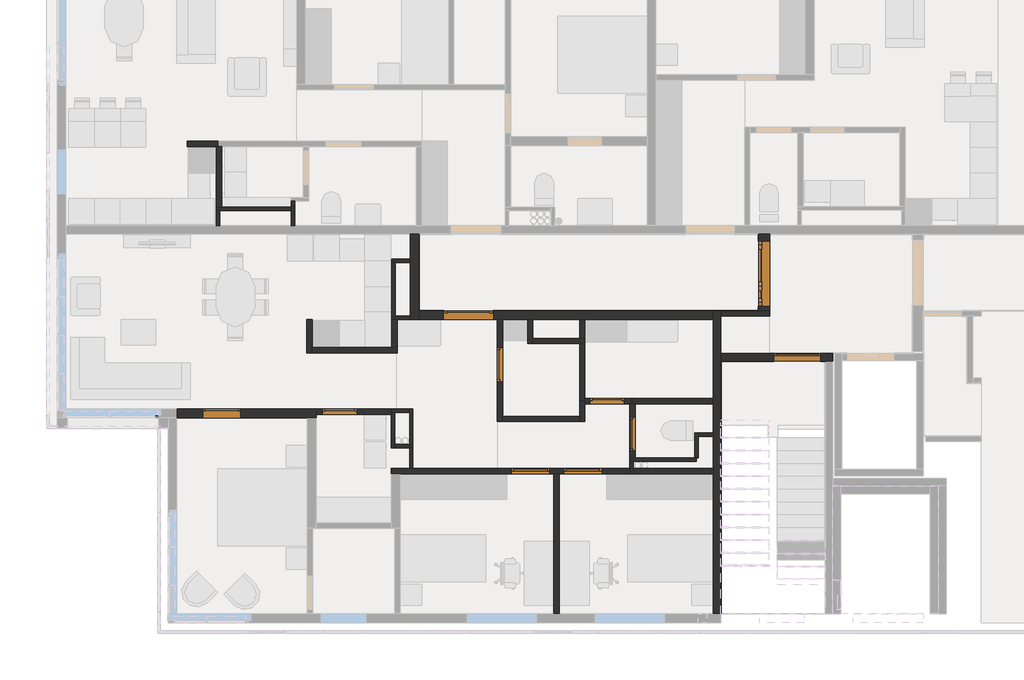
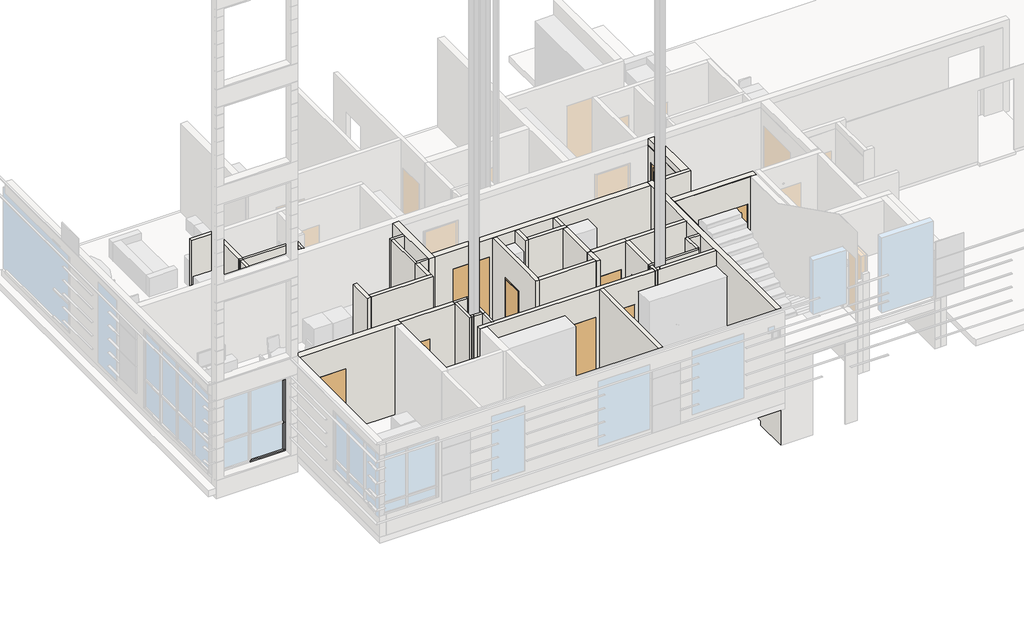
# One storey, part 6 of 14: 47 walls, 20 doors, 3 members, 2 plates.
"""IFC4 building model written with IfcOpenShell, lengths in millimetres."""

from ifc_helpers import new_model, si_unit, frame, origin, place, context, project, spatial, polyline, outline, extrude, faceted_brep, transform, mapped, element, save
from components import door_1f93f5fc, door_38ff9651, door_b4f82bfb, door_3b0bb860, door_b8e875bd, door_642c7085, door_3a59e23d, door_1132ae02, door_050a15a8, door_1362573d, door_b067f354, door_c5ad530d, door_0d53e0d2, door_be61796a, rectangular_mullion_150x50_b8963a12, rectangular_mullion_150x50_a91aaa2b, rectangular_mullion_150x50_60451361, system_panel_b4577e30, system_panel_097f168f

model = new_model("IFC4")

# Units and contexts
model_context = context("Model", 3, world=origin())
ifc_project = project(units=[si_unit("LENGTHUNIT", "METRE", prefix="MILLI")], contexts=[model_context])

# Site, building, storey
site = spatial("IfcSite", under=ifc_project)
building = spatial("IfcBuilding", under=site)
storey = spatial("IfcBuildingStorey", under=building, Name="03_+7,700_Ж", Elevation=4500.0)

# Doors
placement = place(None, origin())
door_shape = door_1f93f5fc(model_context)
element("IfcDoor", 1, ObjectType="Dr_Проем-Простой : ДВ", at=placement, inside=storey, context=model_context, shape_type="MappedRepresentation", body=[
    mapped(door_shape, transform((135799.6769838, 118599.9999987, 4500.0), x_axis=(1.0, 0.0, 0.0), y_axis=(0.0, 1.0, 0.0), z_axis=(0.0, 0.0, 1.0))),
])
door_2_shape = door_38ff9651(model_context)
element("IfcDoor", 2, ObjectType="Dr_Проем-Простой : ДВ", at=placement, inside=storey, context=model_context, shape_type="MappedRepresentation", body=[
    mapped(door_2_shape, transform((143905.3230165, 117609.9999987, 4500.0), x_axis=(-1.0, 0.0, 0.0), y_axis=(0.0, -1.0, 0.0), z_axis=(0.0, 0.0, 1.0))),
])
door_3_shape = door_b4f82bfb(model_context)
element("IfcDoor", 3, ObjectType="Dr_Проем-Простой : ДВ", at=placement, inside=storey, context=model_context, shape_type="MappedRepresentation", body=[
    mapped(door_3_shape, transform((142925.0000001, 119775.3230151, 4500.0), x_axis=(0.0, -1.0, 0.0), y_axis=(1.0, 0.0, 0.0), z_axis=(0.0, 0.0, 1.0))),
])
door_4_shape = door_3b0bb860(model_context)
element("IfcDoor", 4, ObjectType="Dr_Проем-Простой : ДВ", at=placement, inside=storey, context=model_context, shape_type="MappedRepresentation", body=[
    mapped(door_4_shape, transform((139842.5000001, 115609.6769824, 4500.0), x_axis=(0.0, 1.0, 0.0), y_axis=(-1.0, 0.0, 0.0), z_axis=(0.0, 0.0, 1.0))),
])
element("IfcDoor", 5, ObjectType="Dr_Проем-Простой : ДВ", at=placement, inside=storey, context=model_context, shape_type="MappedRepresentation", body=[
    mapped(door_4_shape, transform((139039.6769838, 116587.4999987, 4500.0), x_axis=(1.0, 0.0, 0.0), y_axis=(0.0, 1.0, 0.0), z_axis=(0.0, 0.0, 1.0))),
])
element("IfcDoor", 6, ObjectType="Dr_Проем-Простой : ДВ", at=placement, inside=storey, context=model_context, shape_type="MappedRepresentation", body=[
    mapped(door_4_shape, transform((132784.6769838, 116337.4999987, 4500.0), x_axis=(1.0, 0.0, 0.0), y_axis=(0.0, 1.0, 0.0), z_axis=(0.0, 0.0, 1.0))),
])
door_5_shape = door_b8e875bd(model_context)
element("IfcDoor", 7, ObjectType="Dr_Проем-Простой : ДВ", at=placement, inside=storey, context=model_context, shape_type="MappedRepresentation", body=[
    mapped(door_5_shape, transform((137249.6769838, 114942.4999987, 4500.0), x_axis=(1.0, 0.0, 0.0), y_axis=(0.0, 1.0, 0.0), z_axis=(0.0, 0.0, 1.0))),
])
element("IfcDoor", 8, ObjectType="Dr_Проем-Простой : ДВ", at=placement, inside=storey, context=model_context, shape_type="MappedRepresentation", body=[
    mapped(door_5_shape, transform((138474.6769838, 114942.4999987, 4500.0), x_axis=(1.0, 0.0, 0.0), y_axis=(0.0, 1.0, 0.0), z_axis=(0.0, 0.0, 1.0))),
])
element("IfcDoor", 9, ObjectType="Dr_Проем-Простой : ДВ", at=placement, inside=storey, context=model_context, shape_type="MappedRepresentation", body=[
    mapped(door_4_shape, transform((136742.5000001, 117234.6769824, 4500.0), x_axis=(0.0, 1.0, 0.0), y_axis=(-1.0, 0.0, 0.0), z_axis=(0.0, 0.0, 1.0))),
])
door_6_shape = door_642c7085(model_context)
element("IfcDoor", 10, ObjectType="Dr_Проем-Простой : ДВ", at=placement, inside=storey, context=model_context, shape_type="MappedRepresentation", body=[
    mapped(door_6_shape, transform((130024.6769838, 116294.9999987, 4500.0), x_axis=(1.0, 0.0, 0.0), y_axis=(0.0, 1.0, 0.0), z_axis=(0.0, 0.0, 1.0))),
])
door_7_shape = door_3a59e23d(model_context)
element("IfcDoor", 11, ObjectType="Dr_Дверь_v2.1 : ДВПС Оп Г 24-11,5 EI30", at=placement, inside=storey, context=model_context, shape_type="MappedRepresentation", body=[
    mapped(door_7_shape, transform((135880.0000001, 118599.9999987, 4500.0), x_axis=(1.0, 0.0, 0.0), y_axis=(0.0, 1.0, 0.0), z_axis=(0.0, 0.0, 1.0))),
])
door_8_shape = door_1132ae02(model_context)
element("IfcDoor", 12, ObjectType="Dr_Дверь_v2.1 : ДС Мд1 Оп Г Брг 21-8", at=placement, inside=storey, context=model_context, shape_type="MappedRepresentation", body=[
    mapped(door_8_shape, transform((139120.0000001, 116587.4999987, 4500.0), x_axis=(1.0, 0.0, 0.0), y_axis=(0.0, 1.0, 0.0), z_axis=(0.0, 0.0, 1.0))),
])
element("IfcDoor", 13, ObjectType="Dr_Дверь_v2.1 : ДС Мд1 Оп Г Брг 21-8", at=placement, inside=storey, context=model_context, shape_type="MappedRepresentation", body=[
    mapped(door_8_shape, transform((132865.0000001, 116337.4999987, 4500.0), x_axis=(1.0, 0.0, 0.0), y_axis=(0.0, 1.0, 0.0), z_axis=(0.0, 0.0, 1.0))),
])
element("IfcDoor", 14, ObjectType="Dr_Дверь_v2.1 : ДМ Мд1 Оп Г Брг 21-8", at=placement, inside=storey, context=model_context, shape_type="MappedRepresentation", body=[
    mapped(door_8_shape, transform((136742.5000001, 117314.9999987, 4500.0), x_axis=(0.0, 1.0, 0.0), y_axis=(-1.0, 0.0, 0.0), z_axis=(0.0, 0.0, 1.0))),
])
door_9_shape = door_050a15a8(model_context)
element("IfcDoor", 15, ObjectType="Dr_Дверь_v2.1 : ДМ Мд1 Зв2 Оп Г Брг 21-9", at=placement, inside=storey, context=model_context, shape_type="MappedRepresentation", body=[
    mapped(door_9_shape, transform((130105.0000001, 116294.9999987, 4500.0), x_axis=(1.0, 0.0, 0.0), y_axis=(0.0, 1.0, 0.0), z_axis=(0.0, 0.0, 1.0))),
])
door_10_shape = door_1362573d(model_context)
element("IfcDoor", 16, ObjectType="Dr_Дверь_v2.1 : ДВСТД Ос Дп 23-15 Л EIS60", at=placement, inside=storey, context=model_context, shape_type="MappedRepresentation", body=[
    mapped(door_10_shape, transform((142925.0000001, 119694.9999987, 4500.0), x_axis=(0.0, -1.0, 0.0), y_axis=(1.0, 0.0, 0.0), z_axis=(0.0, 0.0, 1.0))),
])
door_11_shape = door_b067f354(model_context)
element("IfcDoor", 17, ObjectType="Dr_Дверь_v2.1 : ДВСТД Оп Ос 21-11 Л EIS60", at=placement, inside=storey, context=model_context, shape_type="MappedRepresentation", body=[
    mapped(door_11_shape, transform((143825.0000001, 117609.9999987, 4500.0), x_axis=(-1.0, 0.0, 0.0), y_axis=(0.0, -1.0, 0.0), z_axis=(0.0, 0.0, 1.0))),
])
door_12_shape = door_c5ad530d(model_context)
element("IfcDoor", 18, ObjectType="Dr_Дверь_v2.1 : ДС Мд1 Оп Г Брг 21-8", at=placement, inside=storey, context=model_context, shape_type="MappedRepresentation", body=[
    mapped(door_12_shape, transform((139842.5000001, 115689.9999987, 4500.0), x_axis=(0.0, 1.0, 0.0), y_axis=(-1.0, 0.0, 0.0), z_axis=(0.0, 0.0, 1.0))),
])
door_13_shape = door_0d53e0d2(model_context)
element("IfcDoor", 19, ObjectType="Dr_Дверь_v2.1 : ДМ Мд1 Зв3 Оп Г Брг 21-9", at=placement, inside=storey, context=model_context, shape_type="MappedRepresentation", body=[
    mapped(door_13_shape, transform((137330.0000001, 114942.4999987, 4500.0), x_axis=(1.0, 0.0, 0.0), y_axis=(0.0, 1.0, 0.0), z_axis=(0.0, 0.0, 1.0))),
])
door_14_shape = door_be61796a(model_context)
element("IfcDoor", 20, ObjectType="Dr_Дверь_v2.1 : ДМ Мд1 Зв3 Оп Г Брг 21-9 Л", at=placement, inside=storey, context=model_context, shape_type="MappedRepresentation", body=[
    mapped(door_14_shape, transform((138555.0000001, 114942.4999987, 4500.0), x_axis=(1.0, 0.0, 0.0), y_axis=(0.0, 1.0, 0.0), z_axis=(0.0, 0.0, 1.0))),
])

# Members
rectangular_mullion_150x50_shape = rectangular_mullion_150x50_b8963a12(model_context)
element("IfcMember", 21, ObjectType="Rectangular Mullion : 150x50", at=placement, inside=storey, context=model_context, shape_type="MappedRepresentation", body=[
    mapped(rectangular_mullion_150x50_shape, transform((128730.0000001, 116274.9999987, 7100.0), x_axis=(1.0, 0.0, 0.0), y_axis=(0.0, 1.0, 0.0), z_axis=(0.0, 0.0, 1.0))),
])
rectangular_mullion_150x50_2_shape = rectangular_mullion_150x50_a91aaa2b(model_context)
element("IfcMember", 22, ObjectType="Rectangular Mullion : 150x50", at=placement, inside=storey, context=model_context, shape_type="MappedRepresentation", body=[
    mapped(rectangular_mullion_150x50_2_shape, transform((128730.0000001, 116274.9999987, 5475.0), x_axis=(1.0, 0.0, 0.0), y_axis=(0.0, 1.0, 0.0), z_axis=(0.0, 0.0, 1.0))),
])
rectangular_mullion_150x50_3_shape = rectangular_mullion_150x50_60451361(model_context)
element("IfcMember", 23, ObjectType="Rectangular Mullion : 150x50", at=placement, inside=storey, context=model_context, shape_type="MappedRepresentation", body=[
    mapped(rectangular_mullion_150x50_3_shape, transform((128730.0000001, 116274.9999987, 4500.0), x_axis=(0.0, 0.0, -1.0), y_axis=(0.0, 1.0, 0.0), z_axis=(1.0, 0.0, 0.0))),
])

# Plates
system_panel_shape = system_panel_b4577e30(model_context)
element("IfcPlate", 24, ObjectType="System Panel : стекло_смещение_0", at=placement, inside=storey, context=model_context, shape_type="MappedRepresentation", body=[
    mapped(system_panel_shape, transform((128155.0000001, 116274.9999987, 4550.0), x_axis=(-1.0, 0.0, 0.0), y_axis=(0.0, -1.0, 0.0), z_axis=(0.0, 0.0, 1.0))),
])
system_panel_2_shape = system_panel_097f168f(model_context)
element("IfcPlate", 25, ObjectType="System Panel : стекло_смещение_0", at=placement, inside=storey, context=model_context, shape_type="MappedRepresentation", body=[
    mapped(system_panel_2_shape, transform((128155.0000001, 116274.9999987, 5500.0), x_axis=(-1.0, 0.0, 0.0), y_axis=(0.0, -1.0, 0.0), z_axis=(0.0, 0.0, 1.0))),
])

# Walls
element("IfcWall", 26, ObjectType="BW_SUB_SKZ_INT_80+40+80=200_Тип П7-------", at=placement, inside=storey, context=model_context, shape_type="SweptSolid", body=[
    extrude(outline(polyline([(134840.0000001, 120499.9999987), (134840.0000001, 118499.9999987), (134640.0000001, 118499.9999987), (134640.0000001, 120499.9999987), (134840.0000001, 120499.9999987)])), frame((0.0, 0.0, 4400.0), z_axis=(0.0, 0.0, 1.0), x_axis=(1.0, 0.0, 0.0)), (0.0, 0.0, 1.0), 3100.0),
])
element("IfcWall", 27, ObjectType="BW_SUB_GKL_INT_125_Тип П9.1-------", at=placement, inside=storey, context=model_context, shape_type="Brep", body=[
    faceted_brep([(136680.0000001, 116104.9999987, 7500.0), (136680.0000001, 118499.9999987, 7500.0), (136680.0000001, 118499.9999987, 4480.0), (136680.0000001, 117839.9999987, 4480.0), (136680.0000001, 117839.9999987, 6600.0), (136680.0000001, 117039.9999987, 6600.0), (136680.0000001, 117039.9999987, 4480.0), (136680.0000001, 116104.9999987, 4480.0), (136805.0000001, 118499.9999987, 7500.0), (136805.0000001, 116229.9999987, 7500.0), (136805.0000001, 116104.9999987, 7500.0), (136805.0000001, 116104.9999987, 4480.0), (136805.0000001, 116229.9999987, 4480.0), (136805.0000001, 117039.9999987, 4480.0), (136805.0000001, 117039.9999987, 6600.0), (136805.0000001, 117839.9999987, 6600.0), (136805.0000001, 117839.9999987, 4480.0), (136805.0000001, 118499.9999987, 4480.0)], [[[0, 1, 2, 3, 4, 5, 6, 7]], [[8, 9, 10, 11, 12, 13, 14, 15, 16, 17]], [[2, 17, 16, 3]], [[11, 7, 6, 13, 12]], [[1, 0, 10, 9, 8]], [[2, 1, 8, 17]], [[5, 14, 13, 6]], [[15, 4, 3, 16]], [[14, 5, 4, 15]], [[0, 7, 11, 10]]]),
])
element("IfcWall", 28, ObjectType="BW_SUB_SKZ_INT_80_Тип П15-------", at=placement, inside=storey, context=model_context, shape_type="Brep", body=[
    faceted_brep([(141300.0000001, 115839.9999987, 4400.0), (141300.0000001, 115249.9999987, 4400.0), (141300.0000001, 115249.9999987, 7500.0), (141300.0000001, 115839.9999987, 7500.0), (141380.0000001, 115839.9999987, 4400.0), (141380.0000001, 115839.9999987, 7500.0), (141380.0000001, 115759.9999987, 7500.0), (141380.0000001, 115249.9999987, 7500.0), (141380.0000001, 115249.9999987, 4400.0), (141380.0000001, 115759.9999987, 4400.0), (141340.0000001, 115249.9999987, 4400.0), (141340.0000001, 115249.9999987, 7500.0)], [[[0, 1, 2, 3]], [[4, 5, 6, 7, 8, 9]], [[1, 0, 4, 9, 8, 10]], [[3, 2, 11, 7, 6, 5]], [[0, 3, 5, 4]], [[2, 1, 10, 8, 7, 11]]]),
])
element("IfcWall", 29, ObjectType="BW_SUB_GKL_INT_125_Тип П9.2-------", at=placement, inside=storey, context=model_context, shape_type="Brep", body=[
    faceted_brep([(139780.0000001, 115249.9999987, 4480.0), (139780.0000001, 115249.9999987, 7500.0), (139780.0000001, 116524.9999987, 7500.0), (139780.0000001, 116524.9999987, 4480.0), (139780.0000001, 116214.9999987, 4480.0), (139780.0000001, 116214.9999987, 6600.0), (139780.0000001, 115414.9999987, 6600.0), (139780.0000001, 115414.9999987, 4480.0), (139905.0000001, 115249.9999987, 7500.0), (139905.0000001, 115249.9999987, 4480.0), (139905.0000001, 115414.9999987, 4480.0), (139905.0000001, 115414.9999987, 6600.0), (139905.0000001, 116214.9999987, 6600.0), (139905.0000001, 116214.9999987, 4480.0), (139905.0000001, 116524.9999987, 4480.0), (139905.0000001, 116524.9999987, 7500.0), (139822.5000001, 116524.9999987, 4480.0), (139822.5000001, 116524.9999987, 7500.0)], [[[0, 1, 2, 3, 4, 5, 6, 7]], [[8, 9, 10, 11, 12, 13, 14, 15]], [[9, 0, 7, 10]], [[3, 16, 14, 13, 4]], [[1, 0, 9, 8]], [[2, 1, 8, 15, 17]], [[6, 11, 10, 7]], [[12, 5, 4, 13]], [[11, 6, 5, 12]], [[3, 2, 17, 15, 14, 16]]]),
])
element("IfcWall", 30, ObjectType="BW_SUB_GKL_INT_125_Тип П9.1-------", at=placement, inside=storey, context=model_context, shape_type="Brep", body=[
    faceted_brep([(139780.0000001, 114879.9999987, 4480.0), (139780.0000001, 114879.9999987, 7500.0), (138130.0000001, 114879.9999987, 7500.0), (138005.0000001, 114879.9999987, 7500.0), (134405.0000001, 114879.9999987, 7500.0), (134195.0000001, 114879.9999987, 7500.0), (134195.0000001, 114879.9999987, 4480.0), (134405.0000001, 114879.9999987, 4480.0), (137005.0000001, 114879.9999987, 4480.0), (137005.0000001, 114879.9999987, 6600.0), (137905.0000001, 114879.9999987, 6600.0), (137905.0000001, 114879.9999987, 4480.0), (138005.0000001, 114879.9999987, 4480.0), (138130.0000001, 114879.9999987, 4480.0), (138230.0000001, 114879.9999987, 4480.0), (138230.0000001, 114879.9999987, 6600.0), (139130.0000001, 114879.9999987, 6600.0), (139130.0000001, 114879.9999987, 4480.0), (139780.0000001, 115004.9999987, 7500.0), (139780.0000001, 115004.9999987, 4480.0), (139130.0000001, 115004.9999987, 4480.0), (139130.0000001, 115004.9999987, 6600.0), (138230.0000001, 115004.9999987, 6600.0), (138230.0000001, 115004.9999987, 4480.0), (137905.0000001, 115004.9999987, 4480.0), (137905.0000001, 115004.9999987, 6600.0), (137005.0000001, 115004.9999987, 6600.0), (137005.0000001, 115004.9999987, 4480.0), (134195.0000001, 115004.9999987, 4480.0), (134195.0000001, 115004.9999987, 7500.0)], [[[0, 1, 2, 3, 4, 5, 6, 7, 8, 9, 10, 11, 12, 13, 14, 15, 16, 17]], [[18, 19, 20, 21, 22, 23, 24, 25, 26, 27, 28, 29]], [[19, 0, 17, 20]], [[27, 8, 7, 6, 28]], [[11, 24, 23, 14, 13, 12]], [[1, 0, 19, 18]], [[5, 4, 3, 2, 1, 18, 29]], [[26, 9, 8, 27]], [[10, 25, 24, 11]], [[9, 26, 25, 10]], [[6, 5, 29, 28]], [[22, 15, 14, 23]], [[16, 21, 20, 17]], [[15, 22, 21, 16]]]),
])
element("IfcWall", 31, ObjectType="BW_SUB_GKL_INT_125_Тип П9.2-------", at=placement, inside=storey, context=model_context, shape_type="Brep", body=[
    faceted_brep([(139822.5000001, 116524.9999987, 4480.0), (139822.5000001, 116524.9999987, 7500.0), (139780.0000001, 116524.9999987, 7500.0), (138730.0000001, 116524.9999987, 7500.0), (138730.0000001, 116524.9999987, 4480.0), (138845.0000001, 116524.9999987, 4480.0), (138845.0000001, 116524.9999987, 6600.0), (139645.0000001, 116524.9999987, 6600.0), (139645.0000001, 116524.9999987, 4480.0), (139780.0000001, 116524.9999987, 4480.0), (139822.5000001, 116649.9999987, 7500.0), (139822.5000001, 116649.9999987, 4480.0), (139645.0000001, 116649.9999987, 4480.0), (139645.0000001, 116649.9999987, 6600.0), (138845.0000001, 116649.9999987, 6600.0), (138845.0000001, 116649.9999987, 4480.0), (138730.0000001, 116649.9999987, 4480.0), (138730.0000001, 116649.9999987, 7500.0), (138730.0000001, 116587.4999987, 4480.0), (138730.0000001, 116587.4999987, 7500.0)], [[[0, 1, 2, 3, 4, 5, 6, 7, 8, 9]], [[10, 11, 12, 13, 14, 15, 16, 17]], [[4, 18, 16, 15, 5]], [[11, 0, 9, 8, 12]], [[1, 0, 11, 10]], [[3, 2, 1, 10, 17, 19]], [[14, 6, 5, 15]], [[7, 13, 12, 8]], [[6, 14, 13, 7]], [[4, 3, 19, 17, 16, 18]]]),
])
element("IfcWall", 32, ObjectType="BW_SUB_GKL_INT_125_Тип П9.1-------", at=placement, inside=storey, context=model_context, shape_type="SweptSolid", body=[
    extrude(outline(polyline([(138005.0000001, 111599.9999987), (138005.0000001, 114879.9999987), (138130.0000001, 114879.9999987), (138130.0000001, 111599.9999987), (138005.0000001, 111599.9999987)])), frame((0.0, 0.0, 4480.0), z_axis=(0.0, 0.0, 1.0), x_axis=(1.0, 0.0, 0.0)), (0.0, 0.0, 1.0), 3020.0),
])
element("IfcWall", 33, ObjectType="BW_SUB_GKL_INT_210_Тип П10.1-------", at=placement, inside=storey, context=model_context, shape_type="Brep", body=[
    faceted_brep([(132445.0000001, 116189.9999987, 7500.0), (132235.0000001, 116189.9999987, 7500.0), (129180.0000001, 116189.9999987, 7500.0), (129180.0000001, 116189.9999987, 4480.0), (129780.0000001, 116189.9999987, 4480.0), (129780.0000001, 116189.9999987, 6600.0), (130680.0000001, 116189.9999987, 6600.0), (130680.0000001, 116189.9999987, 4480.0), (132235.0000001, 116189.9999987, 4480.0), (132445.0000001, 116189.9999987, 4480.0), (129180.0000001, 116399.9999987, 7500.0), (132445.0000001, 116399.9999987, 7500.0), (132445.0000001, 116399.9999987, 4480.0), (130680.0000001, 116399.9999987, 4480.0), (130680.0000001, 116399.9999987, 6600.0), (129780.0000001, 116399.9999987, 6600.0), (129780.0000001, 116399.9999987, 4480.0), (129180.0000001, 116399.9999987, 4480.0), (132445.0000001, 116274.9999987, 4480.0), (132445.0000001, 116274.9999987, 7500.0)], [[[0, 1, 2, 3, 4, 5, 6, 7, 8, 9]], [[10, 11, 12, 13, 14, 15, 16, 17]], [[3, 17, 16, 4]], [[12, 18, 9, 8, 7, 13]], [[2, 1, 0, 19, 11, 10]], [[3, 2, 10, 17]], [[15, 5, 4, 16]], [[6, 14, 13, 7]], [[5, 15, 14, 6]], [[0, 9, 18, 12, 11, 19]]]),
])
element("IfcWall", 34, ObjectType="BW_SUB_GKL_INT_125_Тип П9.1-------", at=placement, inside=storey, context=model_context, shape_type="Brep", body=[
    faceted_brep([(138730.0000001, 116104.9999987, 4480.0), (138730.0000001, 116524.9999987, 4480.0), (138730.0000001, 116587.4999987, 4480.0), (138730.0000001, 116587.4999987, 7500.0), (138730.0000001, 116524.9999987, 7500.0), (138730.0000001, 116104.9999987, 7500.0), (138605.0000001, 116104.9999987, 4480.0), (138605.0000001, 116104.9999987, 7500.0), (138605.0000001, 116229.9999987, 7500.0), (138605.0000001, 116587.4999987, 7500.0), (138605.0000001, 116587.4999987, 4480.0), (138605.0000001, 116229.9999987, 4480.0)], [[[0, 1, 2, 3, 4, 5]], [[6, 7, 8, 9, 10, 11]], [[2, 1, 0, 6, 11, 10]], [[3, 2, 10, 9]], [[5, 4, 3, 9, 8, 7]], [[0, 5, 7, 6]]]),
])
element("IfcWall", 35, ObjectType="BW_SUB_SKZ_INT_80_Тип П15-------", at=placement, inside=storey, context=model_context, shape_type="SweptSolid", body=[
    extrude(outline(polyline([(141730.0000002, 115759.9999987), (141380.0000001, 115759.9999987), (141380.0000001, 115839.9999987), (141730.0000002, 115839.9999987), (141730.0000002, 115759.9999987)])), frame((0.0, 0.0, 4400.0), z_axis=(0.0, 0.0, 1.0), x_axis=(1.0, 0.0, 0.0)), (0.0, 0.0, 1.0), 3100.0),
])
element("IfcWall", 36, ObjectType="BW_SUB_GKL_INT_125_Тип П9.2-------", at=placement, inside=storey, context=model_context, shape_type="SweptSolid", body=[
    extrude(outline(polyline([(4480.0, 134195.0000001), (7500.0, 134195.0000001), (7500.0, 132445.0000001), (4480.0, 132445.0000001), (4480.0, 132590.0000001), (6600.0, 132590.0000001), (6600.0, 133390.0000001), (4480.0, 133390.0000001), (4480.0, 134195.0000001)])), frame((0.0, 116274.9999987, 0.0), z_axis=(0.0, 1.0, 0.0), x_axis=(0.0, 0.0, 1.0)), (0.0, 0.0, 1.0), 125.0),
])
element("IfcWall", 37, ObjectType="BW_SUB_SKZ_INT_80_Тип П15-------", at=placement, inside=storey, context=model_context, shape_type="Brep", body=[
    faceted_brep([(134275.0000001, 115494.9999987, 4400.0), (134275.0000001, 115574.9999987, 4400.0), (134275.0000001, 116319.9999987, 4400.0), (134275.0000001, 116319.9999987, 7500.0), (134275.0000001, 115574.9999987, 7500.0), (134275.0000001, 115494.9999987, 7500.0), (134195.0000001, 115494.9999987, 4400.0), (134195.0000001, 115494.9999987, 7500.0), (134195.0000001, 116319.9999987, 7500.0), (134195.0000001, 116319.9999987, 4400.0)], [[[0, 1, 2, 3, 4, 5]], [[6, 7, 8, 9]], [[2, 1, 0, 6, 9]], [[5, 4, 3, 8, 7]], [[0, 5, 7, 6]], [[3, 2, 9, 8]]]),
])
element("IfcWall", 38, ObjectType="BW_SUB_SKZ_INT_80_Тип П3,П5,П11,П12-------", at=placement, inside=storey, context=model_context, shape_type="SweptSolid", body=[
    extrude(outline(polyline([(134705.0000001, 115494.9999987), (134705.0000001, 115004.9999987), (134625.0000001, 115004.9999987), (134625.0000001, 115494.9999987), (134705.0000001, 115494.9999987)])), frame((0.0, 0.0, 4400.0), z_axis=(0.0, 0.0, 1.0), x_axis=(1.0, 0.0, 0.0)), (0.0, 0.0, 1.0), 3100.0),
])
element("IfcWall", 39, ObjectType="BW_SUB_SKZ_INT_80_Тип П15-------", at=placement, inside=storey, context=model_context, shape_type="SweptSolid", body=[
    extrude(outline(polyline([(134625.0000001, 115494.9999987), (134275.0000001, 115494.9999987), (134275.0000001, 115574.9999987), (134625.0000001, 115574.9999987), (134625.0000001, 115494.9999987)])), frame((0.0, 0.0, 4400.0), z_axis=(0.0, 0.0, 1.0), x_axis=(1.0, 0.0, 0.0)), (0.0, 0.0, 1.0), 3100.0),
])
element("IfcWall", 40, ObjectType="BW_SUB_SKZ_INT_80_Тип П15-------", at=placement, inside=storey, context=model_context, shape_type="Brep", body=[
    faceted_brep([(134210.0000001, 119829.9999987, 4400.0), (134210.0000001, 118499.9999987, 4400.0), (134210.0000001, 118499.9999987, 7500.0), (134210.0000001, 119829.9999987, 7500.0), (134290.0000001, 119829.9999987, 4400.0), (134290.0000001, 119829.9999987, 7500.0), (134290.0000001, 118579.9999987, 7500.0), (134290.0000001, 118499.9999987, 7500.0), (134290.0000001, 118499.9999987, 4400.0), (134290.0000001, 118579.9999987, 4400.0)], [[[0, 1, 2, 3]], [[4, 5, 6, 7, 8, 9]], [[1, 0, 4, 9, 8]], [[3, 2, 7, 6, 5]], [[2, 1, 8, 7]], [[0, 3, 5, 4]]]),
])
element("IfcWall", 41, ObjectType="BW_SUB_SKZ_INT_80_Тип П15-------", at=placement, inside=storey, context=model_context, shape_type="SweptSolid", body=[
    extrude(outline(polyline([(134640.0000001, 118499.9999987), (134290.0000001, 118499.9999987), (134290.0000001, 118579.9999987), (134640.0000001, 118579.9999987), (134640.0000001, 118499.9999987)])), frame((0.0, 0.0, 4400.0), z_axis=(0.0, 0.0, 1.0), x_axis=(1.0, 0.0, 0.0)), (0.0, 0.0, 1.0), 3100.0),
])
element("IfcWall", 42, ObjectType="BW_SUB_GKL_INT_125_Тип П9.1-------", at=placement, inside=storey, context=model_context, shape_type="Brep", body=[
    faceted_brep([(132350.0000001, 117714.9999987, 4480.0), (134335.0000001, 117714.9999987, 4480.0), (134335.0000001, 117714.9999987, 7500.0), (132350.0000001, 117714.9999987, 7500.0), (132350.0000001, 117839.9999987, 4480.0), (132350.0000001, 117839.9999987, 7500.0), (134210.0000001, 117839.9999987, 7500.0), (134335.0000001, 117839.9999987, 7500.0), (134335.0000001, 117839.9999987, 4480.0), (134210.0000001, 117839.9999987, 4480.0)], [[[0, 1, 2, 3]], [[4, 5, 6, 7, 8, 9]], [[1, 0, 4, 9, 8]], [[3, 2, 7, 6, 5]], [[2, 1, 8, 7]], [[0, 3, 5, 4]]]),
])
element("IfcWall", 43, ObjectType="BW_SUB_GKL_INT_125_Тип П9.1-------", at=placement, inside=storey, context=model_context, shape_type="SweptSolid", body=[
    extrude(outline(polyline([(134335.0000001, 118499.9999987), (134335.0000001, 117839.9999987), (134210.0000001, 117839.9999987), (134210.0000001, 118499.9999987), (134335.0000001, 118499.9999987)])), frame((0.0, 0.0, 4480.0), z_axis=(0.0, 0.0, 1.0), x_axis=(1.0, 0.0, 0.0)), (0.0, 0.0, 1.0), 3020.0),
])
element("IfcWall", 44, ObjectType="BW_SUB_GKL_INT_125_Тип П9.1_огибание в торцах-------", at=placement, inside=storey, context=model_context, shape_type="Brep", body=[
    faceted_brep([(132350.0000001, 117714.9999987, 4480.0), (132350.0000001, 117839.9999987, 4480.0), (132350.0000001, 118499.9999987, 4480.0), (132350.0000001, 118499.9999987, 7500.0), (132350.0000001, 117839.9999987, 7500.0), (132350.0000001, 117714.9999987, 7500.0), (132225.0000001, 117714.9999987, 4480.0), (132225.0000001, 117714.9999987, 7500.0), (132225.0000001, 118499.9999987, 7500.0), (132225.0000001, 118499.9999987, 4480.0)], [[[0, 1, 2, 3, 4, 5]], [[6, 7, 8, 9]], [[2, 1, 0, 6, 9]], [[3, 2, 9, 8]], [[5, 4, 3, 8, 7]], [[0, 5, 7, 6]]]),
])
element("IfcWall", 45, ObjectType="BW_SUB_GKL_INT_125_Тип П9.2-------", at=placement, inside=storey, context=model_context, shape_type="Brep", body=[
    faceted_brep([(130100.0000001, 122549.9999987, 4480.0), (130100.0000001, 121129.9999987, 4480.0), (130100.0000001, 121129.9999987, 7500.0), (130100.0000001, 122549.9999987, 7500.0), (130225.0000001, 122549.9999987, 4480.0), (130225.0000001, 122549.9999987, 7500.0), (130225.0000001, 121129.9999987, 7500.0), (130225.0000001, 121129.9999987, 4480.0), (130140.0000001, 122549.9999987, 4480.0), (130140.0000001, 122549.9999987, 7500.0)], [[[0, 1, 2, 3]], [[4, 5, 6, 7]], [[1, 0, 8, 4, 7]], [[2, 1, 7, 6]], [[3, 2, 6, 5, 9]], [[0, 3, 9, 5, 4, 8]]]),
])
element("IfcWall", 46, ObjectType="BW_SUB_GKL_INT_125_Тип П9.1_огибание в торцах-------", at=placement, inside=storey, context=model_context, shape_type="Brep", body=[
    faceted_brep([(129420.0000001, 122549.9999987, 4480.0), (130100.0000001, 122549.9999987, 4480.0), (130140.0000001, 122549.9999987, 4480.0), (130140.0000001, 122549.9999987, 7500.0), (130100.0000001, 122549.9999987, 7500.0), (129420.0000001, 122549.9999987, 7500.0), (129420.0000001, 122674.9999987, 4480.0), (129420.0000001, 122674.9999987, 7500.0), (130140.0000001, 122674.9999987, 7500.0), (130140.0000001, 122674.9999987, 4480.0)], [[[0, 1, 2, 3, 4, 5]], [[6, 7, 8, 9]], [[2, 1, 0, 6, 9]], [[3, 2, 9, 8]], [[5, 4, 3, 8, 7]], [[0, 5, 7, 6]]]),
])
element("IfcWall", 47, ObjectType="BW_SUB_SKZ_INT_80_Тип П15-------", at=placement, inside=storey, context=model_context, shape_type="Brep", body=[
    faceted_brep([(130100.0000001, 121049.9999987, 4400.0), (130180.0000001, 121049.9999987, 4400.0), (131855.0000001, 121049.9999987, 4400.0), (131855.0000001, 121049.9999987, 7500.0), (130180.0000001, 121049.9999987, 7500.0), (130100.0000001, 121049.9999987, 7500.0), (130100.0000001, 121129.9999987, 4400.0), (130100.0000001, 121129.9999987, 7500.0), (131855.0000001, 121129.9999987, 7500.0), (131855.0000001, 121129.9999987, 4400.0)], [[[0, 1, 2, 3, 4, 5]], [[6, 7, 8, 9]], [[2, 1, 0, 6, 9]], [[5, 4, 3, 8, 7]], [[0, 5, 7, 6]], [[3, 2, 9, 8]]]),
])
element("IfcWall", 48, ObjectType="BW_SUB_SKZ_INT_80_Тип П15-------", at=placement, inside=storey, context=model_context, shape_type="Brep", body=[
    faceted_brep([(131935.0000001, 120699.9999987, 4400.0), (131935.0000001, 121149.9999987, 4400.0), (131935.0000001, 121149.9999987, 7500.0), (131935.0000001, 120699.9999987, 7500.0), (131855.0000001, 120699.9999987, 4400.0), (131855.0000001, 120699.9999987, 7500.0), (131855.0000001, 121049.9999987, 7500.0), (131855.0000001, 121129.9999987, 7500.0), (131855.0000001, 121149.9999987, 7500.0), (131855.0000001, 121149.9999987, 4400.0), (131855.0000001, 121129.9999987, 4400.0), (131855.0000001, 121049.9999987, 4400.0)], [[[0, 1, 2, 3]], [[4, 5, 6, 7, 8, 9, 10, 11]], [[1, 0, 4, 11, 10, 9]], [[2, 1, 9, 8]], [[3, 2, 8, 7, 6, 5]], [[0, 3, 5, 4]]]),
])
element("IfcWall", 49, ObjectType="BW_SUB_SKZ_INT_80_Тип П15-------", at=placement, inside=storey, context=model_context, shape_type="Brep", body=[
    faceted_brep([(139780.0000001, 115169.9999987, 4400.0), (139860.0000001, 115169.9999987, 4400.0), (141340.0000001, 115169.9999987, 4400.0), (141340.0000001, 115169.9999987, 7500.0), (139860.0000001, 115169.9999987, 7500.0), (139780.0000001, 115169.9999987, 7500.0), (139780.0000001, 115249.9999987, 4400.0), (139780.0000001, 115249.9999987, 7500.0), (141300.0000001, 115249.9999987, 7500.0), (141340.0000001, 115249.9999987, 7500.0), (141340.0000001, 115249.9999987, 4400.0), (141300.0000001, 115249.9999987, 4400.0)], [[[0, 1, 2, 3, 4, 5]], [[6, 7, 8, 9, 10, 11]], [[2, 1, 0, 6, 11, 10]], [[3, 2, 10, 9]], [[5, 4, 3, 9, 8, 7]], [[0, 5, 7, 6]]]),
])
element("IfcWall", 50, ObjectType="BW_SUB_BrF_INT_250_Тип П2-------", at=placement, inside=storey, context=model_context, shape_type="Brep", body=[
    faceted_brep([(143050.0000001, 120499.9999987, 4400.0), (143050.0000001, 120499.9999987, 7500.0), (143050.0000001, 118699.9999987, 7500.0), (143050.0000001, 118699.9999987, 4400.0), (143050.0000001, 118804.9999987, 4400.0), (143050.0000001, 118804.9999987, 6800.0), (143050.0000001, 120334.9999987, 6800.0), (143050.0000001, 120334.9999987, 4400.0), (142800.0000001, 120499.9999987, 7500.0), (142800.0000001, 120499.9999987, 4400.0), (142800.0000001, 120334.9999987, 4400.0), (142800.0000001, 120334.9999987, 4500.0), (142800.0000001, 120334.9999987, 6800.0), (142800.0000001, 118804.9999987, 6800.0), (142800.0000001, 118804.9999987, 4500.0), (142800.0000001, 118804.9999987, 4400.0), (142800.0000001, 118699.9999987, 4400.0), (142800.0000001, 118699.9999987, 7500.0)], [[[0, 1, 2, 3, 4, 5, 6, 7]], [[8, 9, 10, 11, 12, 13, 14, 15, 16, 17]], [[9, 0, 7, 10]], [[3, 16, 15, 4]], [[1, 0, 9, 8]], [[2, 1, 8, 17]], [[6, 12, 11, 10, 7]], [[13, 5, 4, 15, 14]], [[12, 6, 5, 13]], [[3, 2, 17, 16]]]),
])
element("IfcWall", 51, ObjectType="BW_SUB_BrF_INT_120_Тип П1-------", at=placement, inside=storey, context=model_context, shape_type="Brep", body=[
    faceted_brep([(143050.0000002, 118699.9999987, 4400.0), (142800.0000001, 118699.9999987, 4400.0), (141910.0000002, 118699.9999987, 4400.0), (141910.0000002, 118699.9999987, 7500.0), (142800.0000001, 118699.9999987, 7500.0), (143050.0000002, 118699.9999987, 7500.0), (143050.0000002, 118579.9999987, 4400.0), (143050.0000002, 118579.9999987, 7500.0), (141910.0000002, 118579.9999987, 7500.0), (141910.0000002, 118579.9999987, 4400.0)], [[[0, 1, 2, 3, 4, 5]], [[6, 7, 8, 9]], [[2, 1, 0, 6, 9]], [[3, 2, 9, 8]], [[5, 4, 3, 8, 7]], [[0, 5, 7, 6]]]),
])
element("IfcWall", 52, ObjectType="BW_SUB_SKZ_INT_80_Тип П15-------", at=placement, inside=storey, context=model_context, shape_type="Brep", body=[
    faceted_brep([(134640.0000001, 119909.9999987, 4400.0), (134210.0000001, 119909.9999987, 4400.0), (134210.0000001, 119909.9999987, 7500.0), (134640.0000001, 119909.9999987, 7500.0), (134640.0000001, 119829.9999987, 4400.0), (134640.0000001, 119829.9999987, 7500.0), (134290.0000001, 119829.9999987, 7500.0), (134210.0000001, 119829.9999987, 7500.0), (134210.0000001, 119829.9999987, 4400.0), (134290.0000001, 119829.9999987, 4400.0)], [[[0, 1, 2, 3]], [[4, 5, 6, 7, 8, 9]], [[1, 0, 4, 9, 8]], [[3, 2, 7, 6, 5]], [[0, 3, 5, 4]], [[2, 1, 8, 7]]]),
])
element("IfcWall", 53, ObjectType="BW_SUB_BrF_INT_120_Тип П1-------", at=placement, inside=storey, context=model_context, shape_type="Brep", body=[
    faceted_brep([(137390.0000001, 118499.9999987, 4400.0), (137390.0000001, 117929.9999987, 4400.0), (137390.0000001, 117929.9999987, 7500.0), (137390.0000001, 118499.9999987, 7500.0), (137510.0000001, 118499.9999987, 4400.0), (137510.0000001, 118499.9999987, 7500.0), (137510.0000001, 118049.9999987, 7500.0), (137510.0000001, 117929.9999987, 7500.0), (137510.0000001, 117929.9999987, 4400.0), (137510.0000001, 118049.9999987, 4400.0)], [[[0, 1, 2, 3]], [[4, 5, 6, 7, 8, 9]], [[1, 0, 4, 9, 8]], [[3, 2, 7, 6, 5]], [[0, 3, 5, 4]], [[2, 1, 8, 7]]]),
])
element("IfcWall", 54, ObjectType="BW_SUB_BrF_INT_120_Тип П1-------", at=placement, inside=storey, context=model_context, shape_type="Brep", body=[
    faceted_brep([(137510.0000001, 117929.9999987, 4400.0), (138730.0000001, 117929.9999987, 4400.0), (138730.0000001, 117929.9999987, 7500.0), (137510.0000001, 117929.9999987, 7500.0), (137510.0000001, 118049.9999987, 4400.0), (137510.0000001, 118049.9999987, 7500.0), (138610.0000001, 118049.9999987, 7500.0), (138730.0000001, 118049.9999987, 7500.0), (138730.0000001, 118049.9999987, 4400.0), (138610.0000001, 118049.9999987, 4400.0)], [[[0, 1, 2, 3]], [[4, 5, 6, 7, 8, 9]], [[1, 0, 4, 9, 8]], [[3, 2, 7, 6, 5]], [[0, 3, 5, 4]], [[2, 1, 8, 7]]]),
])
element("IfcWall", 55, ObjectType="BW_SUB_BrF_INT_120_Тип П1-------", at=placement, inside=storey, context=model_context, shape_type="SweptSolid", body=[
    extrude(outline(polyline([(138730.0000001, 118499.9999987), (138730.0000001, 118049.9999987), (138610.0000001, 118049.9999987), (138610.0000001, 118499.9999987), (138730.0000001, 118499.9999987)])), frame((0.0, 0.0, 4400.0), z_axis=(0.0, 0.0, 1.0), x_axis=(1.0, 0.0, 0.0)), (0.0, 0.0, 1.0), 3100.0),
])
element("IfcWall", 56, ObjectType="BW_SUB_GKL_INT_125_Тип П9.1-------", at=placement, inside=storey, context=model_context, shape_type="SweptSolid", body=[
    extrude(outline(polyline([(136805.0000001, 116229.9999987), (138605.0000001, 116229.9999987), (138605.0000001, 116104.9999987), (136805.0000001, 116104.9999987), (136805.0000001, 116229.9999987)])), frame((0.0, 0.0, 4480.0), z_axis=(0.0, 0.0, 1.0), x_axis=(1.0, 0.0, 0.0)), (0.0, 0.0, 1.0), 3020.0),
])
element("IfcWall", 57, ObjectType="BW_FN2_10_внутр отделка МОП-------", at=placement, inside=storey, context=model_context, shape_type="Brep", body=[
    faceted_brep([(134840.0000001, 120489.9999987, 4500.0), (134840.0000001, 118699.9999987, 4500.0), (134840.0000001, 118699.9999987, 7300.0), (134840.0000001, 120489.9999987, 7300.0), (134850.0000001, 120489.9999987, 4500.0), (134850.0000001, 120489.9999987, 7300.0), (134850.0000001, 118709.9999987, 7300.0), (134850.0000001, 118699.9999987, 7300.0), (134850.0000001, 118699.9999987, 4500.0), (134850.0000001, 118709.9999987, 4500.0)], [[[0, 1, 2, 3]], [[4, 5, 6, 7, 8, 9]], [[1, 0, 4, 9, 8]], [[3, 2, 7, 6, 5]], [[0, 3, 5, 4]], [[2, 1, 8, 7]]]),
])
element("IfcWall", 58, ObjectType="BW_FN2_10_внутр отделка МОП-------", at=placement, inside=storey, context=model_context, shape_type="Brep", body=[
    faceted_brep([(142800.0000002, 118699.9999987, 7300.0), (134850.0000001, 118699.9999987, 7300.0), (134850.0000001, 118699.9999987, 4500.0), (135430.0000001, 118699.9999987, 4500.0), (135430.0000001, 118699.9999987, 6900.0), (136580.0000001, 118699.9999987, 6900.0), (136580.0000001, 118699.9999987, 4500.0), (142800.0000002, 118699.9999987, 4500.0), (134850.0000001, 118709.9999987, 7300.0), (142790.0000002, 118709.9999987, 7300.0), (142800.0000002, 118709.9999987, 7300.0), (142800.0000002, 118709.9999987, 4500.0), (142790.0000002, 118709.9999987, 4500.0), (136580.0000001, 118709.9999987, 4500.0), (136580.0000001, 118709.9999987, 6900.0), (135430.0000001, 118709.9999987, 6900.0), (135430.0000001, 118709.9999987, 4500.0), (134850.0000001, 118709.9999987, 4500.0)], [[[0, 1, 2, 3, 4, 5, 6, 7]], [[8, 9, 10, 11, 12, 13, 14, 15, 16, 17]], [[11, 7, 6, 13, 12]], [[2, 17, 16, 3]], [[1, 0, 10, 9, 8]], [[0, 7, 11, 10]], [[2, 1, 8, 17]], [[15, 4, 3, 16]], [[5, 14, 13, 6]], [[4, 15, 14, 5]]]),
])
element("IfcWall", 59, ObjectType="BW_FN2_10_внутр отделка МОП-------", at=placement, inside=storey, context=model_context, shape_type="SweptSolid", body=[
    extrude(outline(polyline([(118709.9999987, 7300.0), (120489.9999987, 7300.0), (120489.9999987, 4500.0), (120334.9999987, 4500.0), (120334.9999987, 6800.0), (118804.9999987, 6800.0), (118804.9999987, 4500.0), (118709.9999987, 4500.0), (118709.9999987, 7300.0)])), frame((142790.0000002, 0.0, 0.0), z_axis=(1.0, 0.0, 0.0), x_axis=(0.0, 1.0, 0.0)), (0.0, 0.0, 1.0), 10.0),
])
element("IfcWall", 60, ObjectType="BW_FN2_10_внутр отделка ЛК-------", at=placement, inside=storey, context=model_context, shape_type="Brep", body=[
    faceted_brep([(141910.0000002, 117519.9999987, 7500.0), (144350.0000001, 117519.9999987, 7500.0), (144350.0000001, 117519.9999987, 4500.0), (144250.0000001, 117519.9999987, 4500.0), (144250.0000001, 117519.9999987, 6600.0), (143150.0000001, 117519.9999987, 6600.0), (143150.0000001, 117519.9999987, 4500.0), (141910.0000002, 117519.9999987, 4500.0), (144350.0000001, 117509.9999987, 7500.0), (141920.0000002, 117509.9999987, 7500.0), (141910.0000002, 117509.9999987, 7500.0), (141910.0000002, 117509.9999987, 4500.0), (141920.0000002, 117509.9999987, 4500.0), (143150.0000001, 117509.9999987, 4500.0), (143150.0000001, 117509.9999987, 6600.0), (144250.0000001, 117509.9999987, 6600.0), (144250.0000001, 117509.9999987, 4500.0), (144350.0000001, 117509.9999987, 4500.0)], [[[0, 1, 2, 3, 4, 5, 6, 7]], [[8, 9, 10, 11, 12, 13, 14, 15, 16, 17]], [[11, 7, 6, 13, 12]], [[2, 17, 16, 3]], [[1, 0, 10, 9, 8]], [[0, 7, 11, 10]], [[2, 1, 8, 17]], [[15, 4, 3, 16]], [[5, 14, 13, 6]], [[4, 15, 14, 5]]]),
])
element("IfcWall", 61, ObjectType="BW_FN2_10_внутр отделка ЛК-------", at=placement, inside=storey, context=model_context, shape_type="Brep", body=[
    faceted_brep([(141920.0000002, 111609.9999987, 2850.0), (141920.0000002, 112719.9999987, 2850.0), (141920.0000002, 112719.9999987, 3000.0), (141920.0000002, 113019.9999987, 3000.0), (141920.0000002, 113019.9999987, 3150.0), (141920.0000002, 113319.9999987, 3150.0), (141920.0000002, 113319.9999987, 3300.0), (141920.0000002, 113619.9999987, 3300.0), (141920.0000002, 113619.9999987, 3450.0), (141920.0000002, 113919.9999987, 3450.0), (141920.0000002, 113919.9999987, 3600.0), (141920.0000002, 114219.9999987, 3600.0), (141920.0000002, 114219.9999987, 3750.0), (141920.0000002, 114519.9999987, 3750.0), (141920.0000002, 114519.9999987, 3900.0), (141920.0000002, 114819.9999987, 3900.0), (141920.0000002, 114819.9999987, 4050.0), (141920.0000002, 115119.9999987, 4050.0), (141920.0000002, 115119.9999987, 4200.0), (141920.0000002, 115419.9999987, 4200.0), (141920.0000002, 115419.9999987, 4350.0), (141920.0000002, 115719.9999987, 4350.0), (141920.0000002, 115719.9999987, 4500.0), (141920.0000002, 117509.9999987, 4500.0), (141920.0000002, 117509.9999987, 7500.0), (141920.0000002, 115872.7708751, 7500.0), (141920.0000002, 113149.9999987, 6141.1145618), (141920.0000002, 113149.9999987, 5920.0), (141920.0000002, 111609.9999987, 5920.0), (141910.0000002, 111609.9999987, 2850.0), (141910.0000002, 111609.9999987, 5900.0), (141910.0000002, 111609.9999987, 5920.0), (141910.0000002, 113149.9999987, 5920.0), (141910.0000002, 113149.9999987, 6141.1145618), (141910.0000002, 115872.7708751, 7500.0), (141910.0000002, 117509.9999987, 7500.0), (141910.0000002, 117509.9999987, 4500.0), (141910.0000002, 115719.9999987, 4500.0), (141910.0000002, 115719.9999987, 4350.0), (141910.0000002, 115419.9999987, 4350.0), (141910.0000002, 115419.9999987, 4200.0), (141910.0000002, 115119.9999987, 4200.0), (141910.0000002, 115119.9999987, 4050.0), (141910.0000002, 114819.9999987, 4050.0), (141910.0000002, 114819.9999987, 3900.0), (141910.0000002, 114519.9999987, 3900.0), (141910.0000002, 114519.9999987, 3750.0), (141910.0000002, 114219.9999987, 3750.0), (141910.0000002, 114219.9999987, 3600.0), (141910.0000002, 113919.9999987, 3600.0), (141910.0000002, 113919.9999987, 3450.0), (141910.0000002, 113619.9999987, 3450.0), (141910.0000002, 113619.9999987, 3300.0), (141910.0000002, 113319.9999987, 3300.0), (141910.0000002, 113319.9999987, 3150.0), (141910.0000002, 113019.9999987, 3150.0), (141910.0000002, 113019.9999987, 3000.0), (141910.0000002, 112719.9999987, 3000.0), (141910.0000002, 112719.9999987, 2850.0)], [[[0, 1, 2, 3, 4, 5, 6, 7, 8, 9, 10, 11, 12, 13, 14, 15, 16, 17, 18, 19, 20, 21, 22, 23, 24, 25, 26, 27, 28]], [[29, 30, 31, 32, 33, 34, 35, 36, 37, 38, 39, 40, 41, 42, 43, 44, 45, 46, 47, 48, 49, 50, 51, 52, 53, 54, 55, 56, 57, 58]], [[23, 22, 37, 36]], [[25, 24, 35, 34]], [[1, 0, 29, 58]], [[2, 1, 58, 57]], [[3, 2, 57, 56]], [[4, 3, 56, 55]], [[5, 4, 55, 54]], [[6, 5, 54, 53]], [[7, 6, 53, 52]], [[8, 7, 52, 51]], [[9, 8, 51, 50]], [[10, 9, 50, 49]], [[11, 10, 49, 48]], [[12, 11, 48, 47]], [[13, 12, 47, 46]], [[14, 13, 46, 45]], [[15, 14, 45, 44]], [[16, 15, 44, 43]], [[17, 16, 43, 42]], [[18, 17, 42, 41]], [[19, 18, 41, 40]], [[20, 19, 40, 39]], [[21, 20, 39, 38]], [[22, 21, 38, 37]], [[26, 25, 34, 33]], [[27, 26, 33, 32]], [[28, 27, 32, 31]], [[0, 28, 31, 30, 29]], [[24, 23, 36, 35]]]),
])
element("IfcWall", 62, ObjectType="BW_SUB_SKZ_INT_80_Тип П15-------", at=placement, inside=storey, context=model_context, shape_type="Brep", body=[
    faceted_brep([(134195.0000001, 116319.9999987, 4400.0), (134275.0000001, 116319.9999987, 4400.0), (134625.0000001, 116319.9999987, 4400.0), (134625.0000001, 116319.9999987, 7500.0), (134275.0000001, 116319.9999987, 7500.0), (134195.0000001, 116319.9999987, 7500.0), (134195.0000001, 116399.9999987, 4400.0), (134195.0000001, 116399.9999987, 7500.0), (134625.0000001, 116399.9999987, 7500.0), (134625.0000001, 116399.9999987, 4400.0)], [[[0, 1, 2, 3, 4, 5]], [[6, 7, 8, 9]], [[2, 1, 0, 6, 9]], [[5, 4, 3, 8, 7]], [[0, 5, 7, 6]], [[3, 2, 9, 8]]]),
])
element("IfcWall", 63, ObjectType="BW_SUB_SKZ_INT_80_Тип П15-------", at=placement, inside=storey, context=model_context, shape_type="SweptSolid", body=[
    extrude(outline(polyline([(130180.0000001, 121049.9999987), (130180.0000001, 120699.9999987), (130100.0000001, 120699.9999987), (130100.0000001, 121049.9999987), (130180.0000001, 121049.9999987)])), frame((0.0, 0.0, 4400.0), z_axis=(0.0, 0.0, 1.0), x_axis=(1.0, 0.0, 0.0)), (0.0, 0.0, 1.0), 3100.0),
])
element("IfcWall", 64, ObjectType="BW_SUB_SKZ_INT_80_Тип П11.2-------", at=placement, inside=storey, context=model_context, shape_type="SweptSolid", body=[
    extrude(outline(polyline([(141730.0000002, 114879.9999987), (139860.0000001, 114879.9999987), (139860.0000001, 115004.9999987), (141730.0000002, 115004.9999987), (141730.0000002, 114879.9999987)])), frame((0.0, 0.0, 4400.0), z_axis=(0.0, 0.0, 1.0), x_axis=(1.0, 0.0, 0.0)), (0.0, 0.0, 1.0), 3100.0),
])
element("IfcWall", 65, ObjectType="BW_SUB_SKZ_INT_80_Тип П15-------", at=placement, inside=storey, context=model_context, shape_type="Brep", body=[
    faceted_brep([(139780.0000001, 115169.9999987, 4400.0), (139780.0000001, 114879.9999987, 4400.0), (139780.0000001, 114879.9999987, 7500.0), (139780.0000001, 115169.9999987, 7500.0), (139860.0000001, 115169.9999987, 4400.0), (139860.0000001, 115169.9999987, 7500.0), (139860.0000001, 115004.9999987, 7500.0), (139860.0000001, 114879.9999987, 7500.0), (139860.0000001, 114879.9999987, 4400.0), (139860.0000001, 115004.9999987, 4400.0)], [[[0, 1, 2, 3]], [[4, 5, 6, 7, 8, 9]], [[1, 0, 4, 9, 8]], [[3, 2, 7, 6, 5]], [[0, 3, 5, 4]], [[2, 1, 8, 7]]]),
])
element("IfcWall", 66, ObjectType="BW_SUB_SKZ_INT_80_Тип П15-------", at=placement, inside=storey, context=model_context, shape_type="SweptSolid", body=[
    extrude(outline(polyline([(131935.0000001, 121269.9999987), (131935.0000001, 121149.9999987), (131855.0000001, 121149.9999987), (131855.0000001, 121269.9999987), (131935.0000001, 121269.9999987)])), frame((0.0, 0.0, 4400.0), z_axis=(0.0, 0.0, 1.0), x_axis=(1.0, 0.0, 0.0)), (0.0, 0.0, 1.0), 3100.0),
])
element("IfcWall", 67, ObjectType="BW_SUB_SKZ_INT_80_Тип П15-------", at=placement, inside=storey, context=model_context, shape_type="Brep", body=[
    faceted_brep([(134705.0000001, 115494.9999987, 4400.0), (134705.0000001, 116399.9999987, 4400.0), (134705.0000001, 116399.9999987, 7500.0), (134705.0000001, 115494.9999987, 7500.0), (134625.0000001, 115494.9999987, 4400.0), (134625.0000001, 115494.9999987, 7500.0), (134625.0000001, 115574.9999987, 7500.0), (134625.0000001, 116319.9999987, 7500.0), (134625.0000001, 116399.9999987, 7500.0), (134625.0000001, 116399.9999987, 4400.0), (134625.0000001, 116319.9999987, 4400.0), (134625.0000001, 115574.9999987, 4400.0)], [[[0, 1, 2, 3]], [[4, 5, 6, 7, 8, 9, 10, 11]], [[1, 0, 4, 11, 10, 9]], [[3, 2, 8, 7, 6, 5]], [[2, 1, 9, 8]], [[0, 3, 5, 4]]]),
])
element("IfcWall", 68, ObjectType="BW_SUB_GKL_INT_125_Тип П9.2-------", at=placement, inside=storey, context=model_context, shape_type="Brep", body=[
    faceted_brep([(138730.0000001, 116587.4999987, 4480.0), (138730.0000001, 116649.9999987, 4480.0), (138730.0000001, 117929.9999987, 4480.0), (138730.0000001, 117929.9999987, 7500.0), (138730.0000001, 116649.9999987, 7500.0), (138730.0000001, 116587.4999987, 7500.0), (138605.0000001, 116587.4999987, 4480.0), (138605.0000001, 116587.4999987, 7500.0), (138605.0000001, 117929.9999987, 7500.0), (138605.0000001, 117929.9999987, 4480.0)], [[[0, 1, 2, 3, 4, 5]], [[6, 7, 8, 9]], [[2, 1, 0, 6, 9]], [[3, 2, 9, 8]], [[5, 4, 3, 8, 7]], [[0, 5, 7, 6]]]),
])
element("IfcWall", 69, ObjectType="BW_SUB_GKL_INT_125_Тип П9.3-------", at=placement, inside=storey, context=model_context, shape_type="Brep", body=[
    faceted_brep([(139822.5000001, 116524.9999987, 4480.0), (139905.0000001, 116524.9999987, 4480.0), (141730.0000002, 116524.9999987, 4480.0), (141730.0000002, 116524.9999987, 7500.0), (139905.0000001, 116524.9999987, 7500.0), (139822.5000001, 116524.9999987, 7500.0), (139822.5000001, 116649.9999987, 4480.0), (139822.5000001, 116649.9999987, 7500.0), (141730.0000002, 116649.9999987, 7500.0), (141730.0000002, 116649.9999987, 4480.0)], [[[0, 1, 2, 3, 4, 5]], [[6, 7, 8, 9]], [[2, 1, 0, 6, 9]], [[3, 2, 9, 8]], [[5, 4, 3, 8, 7]], [[0, 5, 7, 6]]]),
])
element("IfcWall", 70, ObjectType="BW_STR_CIP_UP_INT_180-------", at=placement, inside=storey, context=model_context, shape_type="Brep", body=[
    faceted_brep([(141910.0000002, 111599.9999987, 4400.0), (141910.0000002, 117519.9999987, 4400.0), (141910.0000002, 117699.9999987, 4400.0), (141910.0000002, 118699.9999987, 4400.0), (141910.0000002, 118699.9999987, 7500.0), (141910.0000002, 117699.9999987, 7500.0), (141910.0000002, 117519.9999987, 7500.0), (141910.0000002, 117509.9999987, 7500.0), (141910.0000002, 111599.9999987, 7500.0), (141730.0000002, 111599.9999987, 4400.0), (141730.0000002, 111599.9999987, 7500.0), (141730.0000002, 114879.9999987, 7500.0), (141730.0000002, 115004.9999987, 7500.0), (141730.0000002, 118699.9999987, 7500.0), (141730.0000002, 118699.9999987, 4400.0), (141730.0000002, 115004.9999987, 4400.0), (141730.0000002, 114879.9999987, 4400.0)], [[[0, 1, 2, 3, 4, 5, 6, 7, 8]], [[9, 10, 11, 12, 13, 14, 15, 16]], [[3, 2, 1, 0, 9, 16, 15, 14]], [[4, 3, 14, 13]], [[8, 7, 6, 5, 4, 13, 12, 11, 10]], [[0, 8, 10, 9]]]),
])
element("IfcWall", 71, ObjectType="BW_STR_CIP_UP_INT_180-------", at=placement, inside=storey, context=model_context, shape_type="Brep", body=[
    faceted_brep([(141910.0000002, 117699.9999987, 7500.0), (144530.0000001, 117699.9999987, 7500.0), (144530.0000001, 117699.9999987, 4400.0), (144250.0000001, 117699.9999987, 4400.0), (144250.0000001, 117699.9999987, 4500.0), (144250.0000001, 117699.9999987, 6600.0), (143150.0000001, 117699.9999987, 6600.0), (143150.0000001, 117699.9999987, 4500.0), (143150.0000001, 117699.9999987, 4400.0), (141910.0000002, 117699.9999987, 4400.0), (144530.0000001, 117519.9999987, 7500.0), (144350.0000001, 117519.9999987, 7500.0), (141910.0000002, 117519.9999987, 7500.0), (141910.0000002, 117519.9999987, 4500.0), (141910.0000002, 117519.9999987, 4400.0), (143150.0000001, 117519.9999987, 4400.0), (143150.0000001, 117519.9999987, 4500.0), (143150.0000001, 117519.9999987, 6600.0), (144250.0000001, 117519.9999987, 6600.0), (144250.0000001, 117519.9999987, 4500.0), (144250.0000001, 117519.9999987, 4400.0), (144350.0000001, 117519.9999987, 4400.0), (144530.0000001, 117519.9999987, 4400.0)], [[[0, 1, 2, 3, 4, 5, 6, 7, 8, 9]], [[10, 11, 12, 13, 14, 15, 16, 17, 18, 19, 20, 21, 22]], [[2, 22, 21, 20, 3]], [[14, 9, 8, 15]], [[1, 0, 12, 11, 10]], [[2, 1, 10, 22]], [[18, 5, 4, 3, 20, 19]], [[6, 17, 16, 15, 8, 7]], [[5, 18, 17, 6]], [[0, 9, 14, 13, 12]]]),
])
element("IfcWall", 72, ObjectType="BW_STR_CIP_UP_INT_200-------", at=placement, inside=storey, context=model_context, shape_type="Brep", body=[
    faceted_brep([(134840.0000001, 118699.9999987, 4400.0), (134840.0000001, 118699.9999987, 7500.0), (141730.0000001, 118699.9999987, 7500.0), (141730.0000001, 118699.9999987, 4400.0), (136580.0000001, 118699.9999987, 4400.0), (136580.0000001, 118699.9999987, 4500.0), (136580.0000001, 118699.9999987, 6900.0), (135430.0000001, 118699.9999987, 6900.0), (135430.0000001, 118699.9999987, 4500.0), (135430.0000001, 118699.9999987, 4400.0), (134840.0000001, 118499.9999987, 7500.0), (134840.0000001, 118499.9999987, 4400.0), (135430.0000001, 118499.9999987, 4400.0), (135430.0000001, 118499.9999987, 6900.0), (136580.0000001, 118499.9999987, 6900.0), (136580.0000001, 118499.9999987, 4400.0), (141730.0000001, 118499.9999987, 4400.0), (141730.0000001, 118499.9999987, 7500.0)], [[[0, 1, 2, 3, 4, 5, 6, 7, 8, 9]], [[10, 11, 12, 13, 14, 15, 16, 17]], [[11, 0, 9, 12]], [[3, 16, 15, 4]], [[1, 0, 11, 10]], [[2, 1, 10, 17]], [[3, 2, 17, 16]], [[7, 13, 12, 9, 8]], [[14, 6, 5, 4, 15]], [[13, 7, 6, 14]]]),
])

save(model, "model.ifc")
